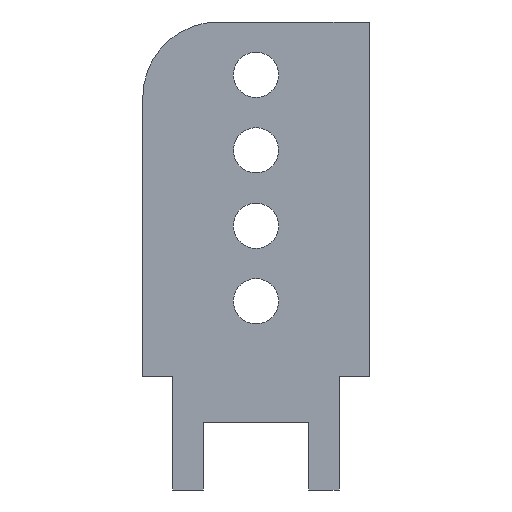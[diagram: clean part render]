
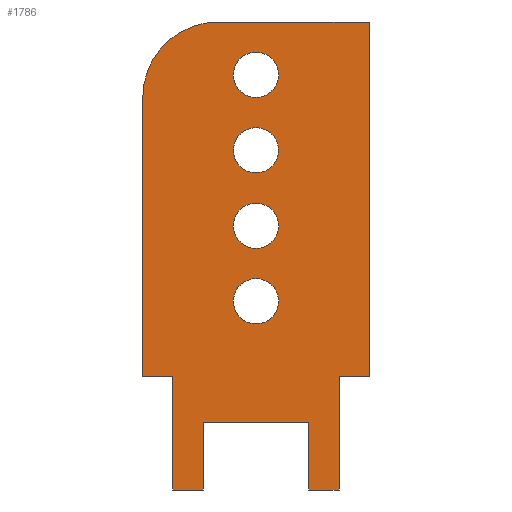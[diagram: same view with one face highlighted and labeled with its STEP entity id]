
A CAD part, left-side view. The second image highlights one B-rep face of the part: STEP entity #1786.
In plain terms, the highlighted planar face has unit normal (-1, 0, 0).
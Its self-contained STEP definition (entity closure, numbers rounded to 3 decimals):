
#48=FACE_BOUND('',#288,.T.);
#49=FACE_BOUND('',#289,.T.);
#50=FACE_BOUND('',#290,.T.);
#51=FACE_BOUND('',#291,.T.);
#80=PLANE('',#1919);
#173=FACE_OUTER_BOUND('',#287,.T.);
#287=EDGE_LOOP('',(#1625,#1626,#1627,#1628,#1629,#1630,#1631,#1632,#1633,
#1634,#1635,#1636,#1637));
#288=EDGE_LOOP('',(#1638));
#289=EDGE_LOOP('',(#1639));
#290=EDGE_LOOP('',(#1640));
#291=EDGE_LOOP('',(#1641));
#309=CIRCLE('',#1853,1.5);
#310=CIRCLE('',#1855,1.5);
#311=CIRCLE('',#1857,1.5);
#312=CIRCLE('',#1859,1.5);
#313=CIRCLE('',#1861,5.);
#489=LINE('',#3502,#607);
#491=LINE('',#3506,#609);
#493=LINE('',#3510,#611);
#495=LINE('',#3514,#613);
#497=LINE('',#3518,#615);
#499=LINE('',#3522,#617);
#501=LINE('',#3526,#619);
#503=LINE('',#3530,#621);
#505=LINE('',#3534,#623);
#510=LINE('',#3544,#628);
#515=LINE('',#4045,#633);
#552=LINE('',#4137,#670);
#607=VECTOR('',#2097,10.);
#609=VECTOR('',#2101,10.);
#611=VECTOR('',#2105,10.);
#613=VECTOR('',#2109,10.);
#615=VECTOR('',#2113,10.);
#617=VECTOR('',#2117,10.);
#619=VECTOR('',#2121,10.);
#621=VECTOR('',#2125,10.);
#623=VECTOR('',#2129,10.);
#628=VECTOR('',#2136,10.);
#633=VECTOR('',#2143,10.);
#670=VECTOR('',#2232,10.);
#787=VERTEX_POINT('',#3479);
#788=VERTEX_POINT('',#3483);
#789=VERTEX_POINT('',#3487);
#790=VERTEX_POINT('',#3491);
#791=VERTEX_POINT('',#3495);
#792=VERTEX_POINT('',#3496);
#793=VERTEX_POINT('',#3501);
#794=VERTEX_POINT('',#3505);
#795=VERTEX_POINT('',#3509);
#796=VERTEX_POINT('',#3513);
#797=VERTEX_POINT('',#3517);
#798=VERTEX_POINT('',#3521);
#799=VERTEX_POINT('',#3525);
#800=VERTEX_POINT('',#3529);
#801=VERTEX_POINT('',#3533);
#803=VERTEX_POINT('',#3538);
#805=VERTEX_POINT('',#3542);
#985=EDGE_CURVE('',#787,#787,#309,.T.);
#987=EDGE_CURVE('',#788,#788,#310,.T.);
#989=EDGE_CURVE('',#789,#789,#311,.T.);
#991=EDGE_CURVE('',#790,#790,#312,.T.);
#992=EDGE_CURVE('',#791,#792,#313,.T.);
#995=EDGE_CURVE('',#793,#791,#489,.T.);
#997=EDGE_CURVE('',#794,#793,#491,.T.);
#999=EDGE_CURVE('',#795,#794,#493,.T.);
#1001=EDGE_CURVE('',#796,#795,#495,.T.);
#1003=EDGE_CURVE('',#797,#796,#497,.T.);
#1005=EDGE_CURVE('',#798,#797,#499,.T.);
#1007=EDGE_CURVE('',#799,#798,#501,.T.);
#1009=EDGE_CURVE('',#800,#799,#503,.T.);
#1011=EDGE_CURVE('',#801,#800,#505,.T.);
#1016=EDGE_CURVE('',#803,#805,#510,.T.);
#1027=EDGE_CURVE('',#803,#801,#515,.T.);
#1074=EDGE_CURVE('',#805,#792,#552,.T.);
#1625=ORIENTED_EDGE('',*,*,#1016,.T.);
#1626=ORIENTED_EDGE('',*,*,#1074,.T.);
#1627=ORIENTED_EDGE('',*,*,#992,.F.);
#1628=ORIENTED_EDGE('',*,*,#995,.F.);
#1629=ORIENTED_EDGE('',*,*,#997,.F.);
#1630=ORIENTED_EDGE('',*,*,#999,.F.);
#1631=ORIENTED_EDGE('',*,*,#1001,.F.);
#1632=ORIENTED_EDGE('',*,*,#1003,.F.);
#1633=ORIENTED_EDGE('',*,*,#1005,.F.);
#1634=ORIENTED_EDGE('',*,*,#1007,.F.);
#1635=ORIENTED_EDGE('',*,*,#1009,.F.);
#1636=ORIENTED_EDGE('',*,*,#1011,.F.);
#1637=ORIENTED_EDGE('',*,*,#1027,.F.);
#1638=ORIENTED_EDGE('',*,*,#985,.F.);
#1639=ORIENTED_EDGE('',*,*,#987,.F.);
#1640=ORIENTED_EDGE('',*,*,#989,.F.);
#1641=ORIENTED_EDGE('',*,*,#991,.F.);
#1786=ADVANCED_FACE('',(#173,#48,#49,#50,#51),#80,.T.);
#1853=AXIS2_PLACEMENT_3D('',#3481,#2072,#2073);
#1855=AXIS2_PLACEMENT_3D('',#3485,#2077,#2078);
#1857=AXIS2_PLACEMENT_3D('',#3489,#2082,#2083);
#1859=AXIS2_PLACEMENT_3D('',#3493,#2087,#2088);
#1861=AXIS2_PLACEMENT_3D('',#3497,#2091,#2092);
#1919=AXIS2_PLACEMENT_3D('',#6477,#2276,#2277);
#2072=DIRECTION('center_axis',(-1.,0.,0.));
#2073=DIRECTION('ref_axis',(0.,1.,0.));
#2077=DIRECTION('center_axis',(-1.,0.,0.));
#2078=DIRECTION('ref_axis',(0.,1.,0.));
#2082=DIRECTION('center_axis',(-1.,0.,0.));
#2083=DIRECTION('ref_axis',(0.,1.,0.));
#2087=DIRECTION('center_axis',(-1.,0.,0.));
#2088=DIRECTION('ref_axis',(0.,1.,0.));
#2091=DIRECTION('center_axis',(1.,0.,0.));
#2092=DIRECTION('ref_axis',(0.,1.,0.));
#2097=DIRECTION('',(0.,0.,1.));
#2101=DIRECTION('',(0.,1.,0.));
#2105=DIRECTION('',(0.,0.,1.));
#2109=DIRECTION('',(0.,1.,0.));
#2113=DIRECTION('',(0.,0.,-1.));
#2117=DIRECTION('',(0.,1.,0.));
#2121=DIRECTION('',(0.,0.,1.));
#2125=DIRECTION('',(0.,1.,0.));
#2129=DIRECTION('',(0.,0.,-1.));
#2136=DIRECTION('',(0.,0.,1.));
#2143=DIRECTION('',(0.,1.,0.));
#2232=DIRECTION('',(0.,1.,0.));
#2276=DIRECTION('center_axis',(-1.,0.,0.));
#2277=DIRECTION('ref_axis',(0.,0.,1.));
#3479=CARTESIAN_POINT('',(-25.8,6.,20.));
#3481=CARTESIAN_POINT('Origin',(-25.8,7.5,20.));
#3483=CARTESIAN_POINT('',(-25.8,6.,15.));
#3485=CARTESIAN_POINT('Origin',(-25.8,7.5,15.));
#3487=CARTESIAN_POINT('',(-25.8,6.,5.));
#3489=CARTESIAN_POINT('Origin',(-25.8,7.5,5.));
#3491=CARTESIAN_POINT('',(-25.8,6.,10.));
#3493=CARTESIAN_POINT('Origin',(-25.8,7.5,10.));
#3495=CARTESIAN_POINT('',(-25.8,15.,18.5));
#3496=CARTESIAN_POINT('',(-25.8,10.,23.5));
#3497=CARTESIAN_POINT('Origin',(-25.8,10.,18.5));
#3501=CARTESIAN_POINT('',(-25.8,15.,0.));
#3502=CARTESIAN_POINT('',(-25.8,15.,0.));
#3505=CARTESIAN_POINT('',(-25.8,13.,0.));
#3506=CARTESIAN_POINT('',(-25.8,0.,0.));
#3509=CARTESIAN_POINT('',(-25.8,13.,-7.5));
#3510=CARTESIAN_POINT('',(-25.8,13.,-7.5));
#3513=CARTESIAN_POINT('',(-25.8,11.,-7.5));
#3514=CARTESIAN_POINT('',(-25.8,11.,-7.5));
#3517=CARTESIAN_POINT('',(-25.8,11.,-3.));
#3518=CARTESIAN_POINT('',(-25.8,11.,-3.));
#3521=CARTESIAN_POINT('',(-25.8,4.,-3.));
#3522=CARTESIAN_POINT('',(-25.8,4.,-3.));
#3525=CARTESIAN_POINT('',(-25.8,4.,-7.5));
#3526=CARTESIAN_POINT('',(-25.8,4.,-7.5));
#3529=CARTESIAN_POINT('',(-25.8,2.,-7.5));
#3530=CARTESIAN_POINT('',(-25.8,2.,-7.5));
#3533=CARTESIAN_POINT('',(-25.8,2.,0.));
#3534=CARTESIAN_POINT('',(-25.8,2.,0.));
#3538=CARTESIAN_POINT('',(-25.8,0.,0.));
#3542=CARTESIAN_POINT('',(-25.8,0.,23.5));
#3544=CARTESIAN_POINT('',(-25.8,0.,0.));
#4045=CARTESIAN_POINT('',(-25.8,0.,0.));
#4137=CARTESIAN_POINT('',(-25.8,0.,23.5));
#6477=CARTESIAN_POINT('Origin',(-25.8,0.,0.));
